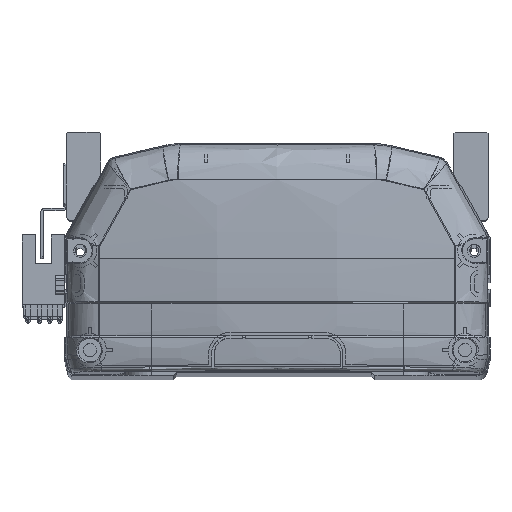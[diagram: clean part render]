
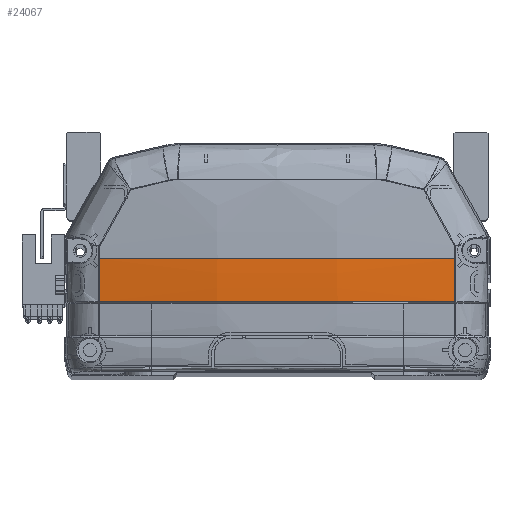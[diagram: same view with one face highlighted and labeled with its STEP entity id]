
A CAD part, top view. The second image highlights one B-rep face of the part: STEP entity #24067.
In plain terms, the highlighted free-form (B-spline) face has degree [3, 3] with [4, 4] control points.
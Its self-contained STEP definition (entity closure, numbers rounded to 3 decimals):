
#1462 = CARTESIAN_POINT ( 'NONE',  ( 56.652, 26.806, -5.044 ) ) ;
#1967 = B_SPLINE_CURVE_WITH_KNOTS ( 'NONE', 3,
 ( #23657, #44751, #16164, #1984, #37559, #27375, #16000, #30791, #12574, #30951, #2292, #23190, #20057 ),
 .UNSPECIFIED., .F., .F.,
 ( 4, 2, 2, 1, 2, 2, 4 ),
 ( 0., 0.25, 0.375, 0.438, 0.469, 0.5, 1. ),
 .UNSPECIFIED. ) ;
#1984 = CARTESIAN_POINT ( 'NONE',  ( 23.877, 22.225, -8.763 ) ) ;
#2292 = CARTESIAN_POINT ( 'NONE',  ( -19.28, 22.225, -9.565 ) ) ;
#2332 = CARTESIAN_POINT ( 'NONE',  ( -19.295, 21.828, -11.186 ) ) ;
#4324 = DIRECTION ( 'NONE',  ( 0., 0., -1. ) ) ;
#5192 = CARTESIAN_POINT ( 'NONE',  ( -56.661, 22.225, -4.818 ) ) ;
#5529 = VERTEX_POINT ( 'NONE', #17107 ) ;
#8296 = CARTESIAN_POINT ( 'NONE',  ( 56.647, 31.387, -5.158 ) ) ;
#8440 = CARTESIAN_POINT ( 'NONE',  ( -56.652, 26.814, -5.045 ) ) ;
#8778 = CIRCLE ( 'NONE', #45805, 6395.966 ) ;
#9036 = ORIENTED_EDGE ( 'NONE', *, *, #22218, .F. ) ;
#9496 = CARTESIAN_POINT ( 'NONE',  ( 57.335, 36., -5.042 ) ) ;
#9705 = CARTESIAN_POINT ( 'NONE',  ( 6452.613, 35.969, -5.158 ) ) ;
#9860 = DIRECTION ( 'NONE',  ( -1., 0., 0. ) ) ;
#12574 = CARTESIAN_POINT ( 'NONE',  ( 2.357, 22.225, -9.562 ) ) ;
#14378 = CARTESIAN_POINT ( 'NONE',  ( 56.661, 22.225, -4.818 ) ) ;
#14900 = ORIENTED_EDGE ( 'NONE', *, *, #44489, .T. ) ;
#15438 = CARTESIAN_POINT ( 'NONE',  ( -56.661, 22.225, -4.818 ) ) ;
#16000 = CARTESIAN_POINT ( 'NONE',  ( 8.363, 22.225, -9.48 ) ) ;
#16164 = CARTESIAN_POINT ( 'NONE',  ( 38.071, 22.225, -7.566 ) ) ;
#16507 = CARTESIAN_POINT ( 'NONE',  ( 19.295, 36., -11.535 ) ) ;
#16592 = FACE_OUTER_BOUND ( 'NONE', #37911, .T. ) ;
#16822 = CARTESIAN_POINT ( 'NONE',  ( -19.295, 36., -11.535 ) ) ;
#17042 =( BOUNDED_SURFACE ( )  B_SPLINE_SURFACE ( 3, 3, ( 
 ( #37898, #20256, #27566, #9496 ),
 ( #23386, #34630, #34468, #16507 ),
 ( #2332, #41495, #24005, #16822 ),
 ( #20407, #30515, #41811, #45092 ) ),
 .UNSPECIFIED., .F., .F., .F. ) 
 B_SPLINE_SURFACE_WITH_KNOTS ( ( 4, 4 ),
 ( 4, 4 ),
 ( 0., 1. ),
 ( 0., 1. ),
 .UNSPECIFIED. ) 
 GEOMETRIC_REPRESENTATION_ITEM ( )  RATIONAL_B_SPLINE_SURFACE ( (
 ( 1., 1., 1., 1.),
 ( 0.99, 0.99, 0.99, 0.99),
 ( 0.99, 0.99, 0.99, 0.99),
 ( 1., 1., 1., 1.) ) ) 
 REPRESENTATION_ITEM ( '' )  SURFACE ( )  );
#17107 = CARTESIAN_POINT ( 'NONE',  ( -56.647, 36., -5.158 ) ) ;
#19095 = CARTESIAN_POINT ( 'NONE',  ( 56.647, 35.969, -5.158 ) ) ;
#19230 = CARTESIAN_POINT ( 'NONE',  ( 56.647, 35.969, -5.158 ) ) ;
#20057 = CARTESIAN_POINT ( 'NONE',  ( -56.661, 22.225, -4.818 ) ) ;
#20256 = CARTESIAN_POINT ( 'NONE',  ( 57.335, 26.762, -4.928 ) ) ;
#20407 = CARTESIAN_POINT ( 'NONE',  ( -57.335, 22.148, -4.7 ) ) ;
#22218 = EDGE_CURVE ( 'NONE', #5529, #25642, #30215, .T. ) ;
#22804 = CARTESIAN_POINT ( 'NONE',  ( -56.647, 31.405, -5.158 ) ) ;
#23007 = ORIENTED_EDGE ( 'NONE', *, *, #31466, .F. ) ;
#23138 = CARTESIAN_POINT ( 'NONE',  ( 56.661, 22.225, -4.818 ) ) ;
#23190 = CARTESIAN_POINT ( 'NONE',  ( -38.235, 22.225, -7.93 ) ) ;
#23386 = CARTESIAN_POINT ( 'NONE',  ( 19.295, 21.828, -11.186 ) ) ;
#23657 = CARTESIAN_POINT ( 'NONE',  ( 56.661, 22.225, -4.818 ) ) ;
#24005 = CARTESIAN_POINT ( 'NONE',  ( -19.295, 31.274, -11.535 ) ) ;
#24067 = ADVANCED_FACE ( 'NONE', ( #16592 ), #17042, .T. ) ;
#25180 = CIRCLE ( 'NONE', #38516, 340.733 ) ;
#25642 = VERTEX_POINT ( 'NONE', #15438 ) ;
#26248 = CARTESIAN_POINT ( 'NONE',  ( -56.647, 36., -5.158 ) ) ;
#27147 = DIRECTION ( 'NONE',  ( 0., 0., -1. ) ) ;
#27375 = CARTESIAN_POINT ( 'NONE',  ( 11.954, 22.225, -9.367 ) ) ;
#27566 = CARTESIAN_POINT ( 'NONE',  ( 57.335, 31.38, -5.042 ) ) ;
#30215 = B_SPLINE_CURVE_WITH_KNOTS ( 'NONE', 3,
 ( #26248, #22804, #8440, #5192 ),
 .UNSPECIFIED., .F., .F.,
 ( 4, 4 ),
 ( 0., 1. ),
 .UNSPECIFIED. ) ;
#30227 = VERTEX_POINT ( 'NONE', #19095 ) ;
#30515 = CARTESIAN_POINT ( 'NONE',  ( -57.335, 26.762, -4.928 ) ) ;
#30791 = CARTESIAN_POINT ( 'NONE',  ( 4.761, 22.225, -9.537 ) ) ;
#30951 = CARTESIAN_POINT ( 'NONE',  ( 1.152, 22.225, -9.568 ) ) ;
#31466 = EDGE_CURVE ( 'NONE', #44609, #5529, #25180, .T. ) ;
#33642 = B_SPLINE_CURVE_WITH_KNOTS ( 'NONE', 3,
 ( #23138, #1462, #8296, #19230 ),
 .UNSPECIFIED., .F., .F.,
 ( 4, 4 ),
 ( 0., 1. ),
 .UNSPECIFIED. ) ;
#34468 = CARTESIAN_POINT ( 'NONE',  ( 19.295, 31.274, -11.535 ) ) ;
#34630 = CARTESIAN_POINT ( 'NONE',  ( 19.295, 26.549, -11.419 ) ) ;
#35193 = ORIENTED_EDGE ( 'NONE', *, *, #45082, .F. ) ;
#35925 = EDGE_CURVE ( 'NONE', #30227, #44609, #8778, .T. ) ;
#36332 = DIRECTION ( 'NONE',  ( 0., 1., 0. ) ) ;
#36627 = CARTESIAN_POINT ( 'NONE',  ( 0., 36., 330.833 ) ) ;
#37559 = CARTESIAN_POINT ( 'NONE',  ( 19.121, 22.225, -9.064 ) ) ;
#37807 = VERTEX_POINT ( 'NONE', #14378 ) ;
#37898 = CARTESIAN_POINT ( 'NONE',  ( 57.335, 22.148, -4.7 ) ) ;
#37911 = EDGE_LOOP ( 'NONE', ( #23007, #38300, #35193, #14900, #9036 ) ) ;
#38300 = ORIENTED_EDGE ( 'NONE', *, *, #35925, .F. ) ;
#38516 = AXIS2_PLACEMENT_3D ( 'NONE', #36627, #36332, #4324 ) ;
#41495 = CARTESIAN_POINT ( 'NONE',  ( -19.295, 26.549, -11.419 ) ) ;
#41811 = CARTESIAN_POINT ( 'NONE',  ( -57.335, 31.38, -5.042 ) ) ;
#44489 = EDGE_CURVE ( 'NONE', #37807, #25642, #1967, .T. ) ;
#44588 = CARTESIAN_POINT ( 'NONE',  ( 56.647, 36., -5.158 ) ) ;
#44609 = VERTEX_POINT ( 'NONE', #44588 ) ;
#44751 = CARTESIAN_POINT ( 'NONE',  ( 47.432, 22.225, -6.377 ) ) ;
#45082 = EDGE_CURVE ( 'NONE', #37807, #30227, #33642, .T. ) ;
#45092 = CARTESIAN_POINT ( 'NONE',  ( -57.335, 36., -5.042 ) ) ;
#45805 = AXIS2_PLACEMENT_3D ( 'NONE', #9705, #27147, #9860 ) ;
